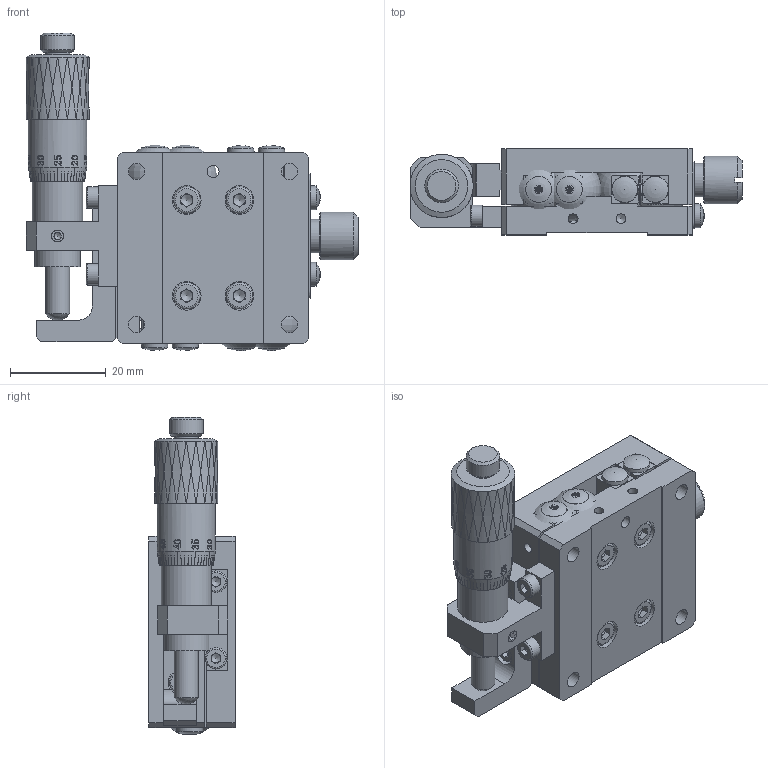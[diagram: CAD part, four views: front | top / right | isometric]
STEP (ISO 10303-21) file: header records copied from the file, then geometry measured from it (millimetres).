
FILE_DESCRIPTION (( 'STEP AP203' ), '1' );
FILE_NAME ('BPTA40.STEP', '2024-07-24T06:58:31', ( 'Windows User' ), ( 'P R C' ), 'SwSTEP 2.0', 'SolidWorks 2024', '' );
FILE_SCHEMA (( 'CONFIG_CONTROL_DESIGN' ));
Length unit declared in the file: millimetre
Products named in the file (1): BPTA40
Bounding box: 69.4 x 18 x 66.4 mm (x, y, z)
Volume: 27199.1 mm3; surface area: 28861.4 mm2
Topology: 29 solids, 29 shells, 1441 faces, 3611 edges, 2334 vertices
Faces by surface type: plane 591, bspline 395, cylinder 260, cone 172, torus 20, sphere 3
Full cylindrical faces by diameter (mm): 2 x10, 2.05 x15, 2.5 x20, 2.55 x8, 2.8 x2, 2.95 x9, 3 x11, 3.1 x2, 3.4 x12, 4.4 x8, 4.5 x4, 5 x7, 5.5 x8, 6 x12, 7 x2, 8.5 x1, 9.5 x2, 10 x1, 10.5 x1, 12.2 x1
Entity records: 72780 total; most frequent: CARTESIAN_POINT 43563, ORIENTED_EDGE 6552, DIRECTION 4433, EDGE_CURVE 3276, VERTEX_POINT 2231, EDGE_LOOP 1901, AXIS2_PLACEMENT_3D 1643, FACE_OUTER_BOUND 1574
